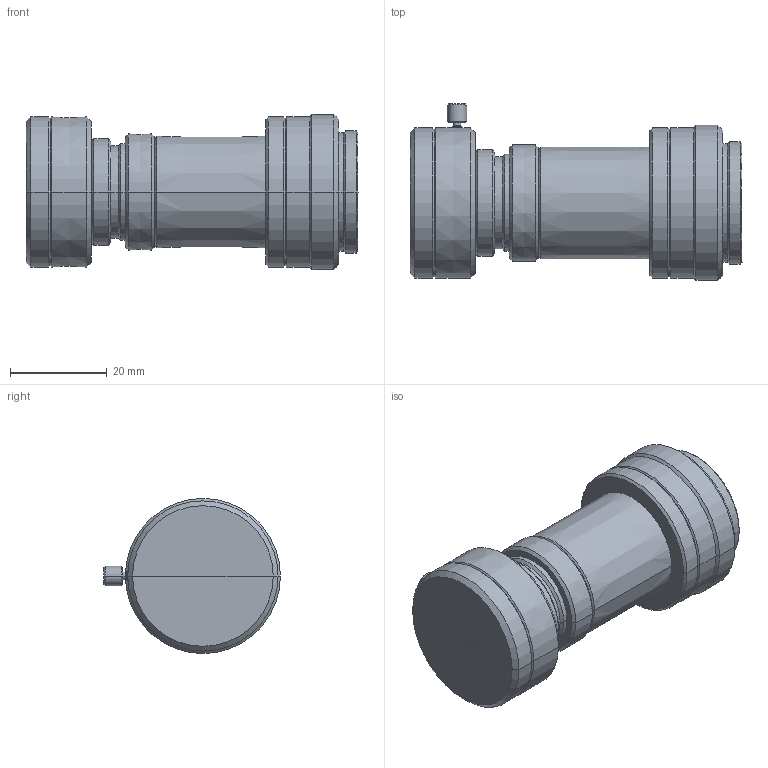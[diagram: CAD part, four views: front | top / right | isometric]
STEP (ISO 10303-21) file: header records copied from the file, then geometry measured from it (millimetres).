
FILE_DESCRIPTION (( 'STEP AP203' ), '1' );
FILE_NAME ('VS-MC0510S.STEP', '2014-10-28T01:24:11', ( 'miura_vst' ), ( '' ), 'SwSTEP 2.0', 'SolidWorks 2014', '' );
FILE_SCHEMA (( 'CONFIG_CONTROL_DESIGN' ));
Length unit declared in the file: millimetre
Products named in the file (1): VS-MC0510S
Bounding box: 68.5 x 36.5 x 32 mm (x, y, z)
Volume: 38267.2 mm3; surface area: 8219.9 mm2
Topology: 1 solids, 1 shells, 85 faces, 173 edges, 90 vertices
Faces by surface type: cone 66, cylinder 14, plane 5
Entity records: 2250 total; most frequent: DIRECTION 425, CARTESIAN_POINT 377, ORIENTED_EDGE 338, AXIS2_PLACEMENT_3D 172, EDGE_CURVE 169, VERTEX_POINT 90, EDGE_LOOP 89, CIRCLE 86
